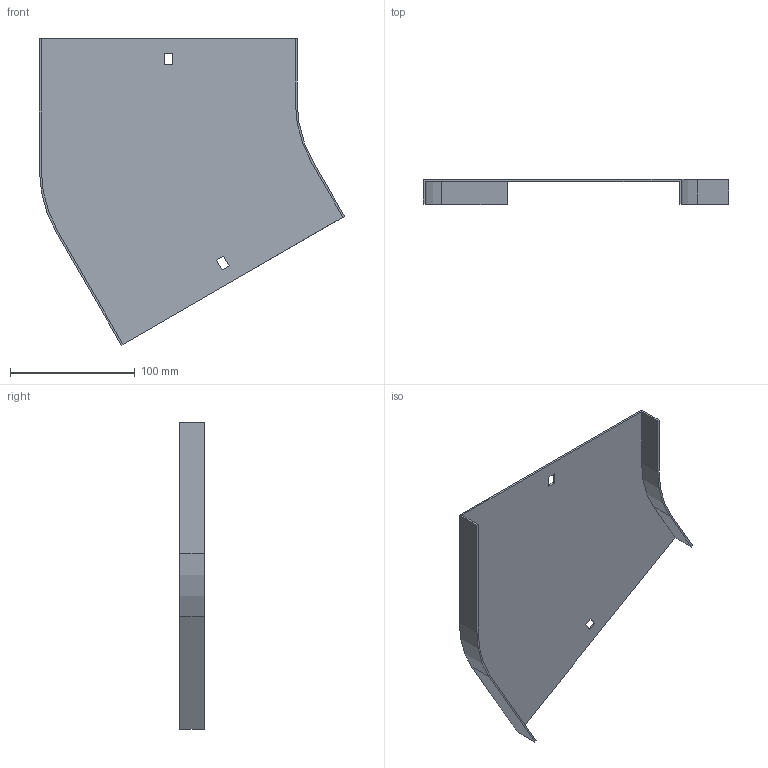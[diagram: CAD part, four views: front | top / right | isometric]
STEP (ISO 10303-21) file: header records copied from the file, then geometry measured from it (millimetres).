
FILE_DESCRIPTION (( 'STEP AP214' ), '1' );
FILE_NAME ('12N1R200.step', '2025-02-21T09:20:18', ( '' ), ( '' ), 'SwSTEP 2.0', 'SolidWorks 2023', '' );
FILE_SCHEMA (( 'AUTOMOTIVE_DESIGN' ));
Length unit declared in the file: millimetre
Products named in the file (1): 12N1R200
Bounding box: 245.2 x 20 x 246.05 mm (x, y, z)
Volume: 75970.7 mm3; surface area: 102740.4 mm2
Topology: 1 solids, 1 shells, 26 faces, 72 edges, 48 vertices
Faces by surface type: plane 22, cylinder 4
Entity records: 855 total; most frequent: CARTESIAN_POINT 147, ORIENTED_EDGE 144, DIRECTION 134, EDGE_CURVE 72, VECTOR 64, LINE 64, VERTEX_POINT 48, AXIS2_PLACEMENT_3D 35
